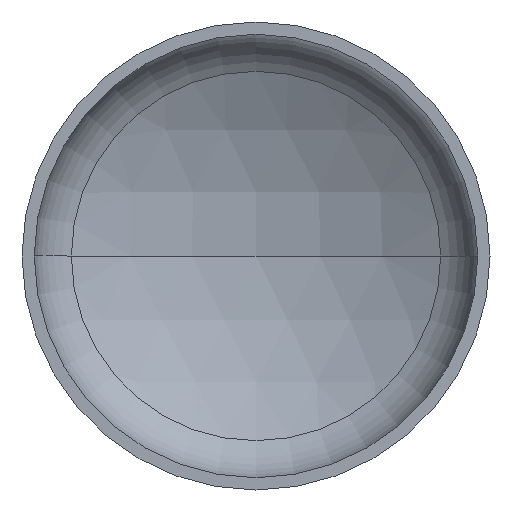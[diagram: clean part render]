
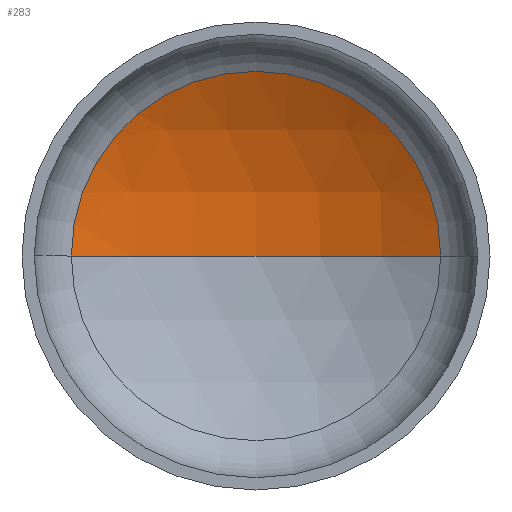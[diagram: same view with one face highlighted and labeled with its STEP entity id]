
A CAD part, front view. The second image highlights one B-rep face of the part: STEP entity #283.
In plain terms, the highlighted spherical face has radius 640 mm.
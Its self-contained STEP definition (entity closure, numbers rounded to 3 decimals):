
#7 = AXIS2_PLACEMENT_3D ( 'NONE', #310, #180, #333 ) ;
#9 = AXIS2_PLACEMENT_3D ( 'NONE', #228, #381, #249 ) ;
#16 = AXIS2_PLACEMENT_3D ( 'NONE', #328, #201, #356 ) ;
#17 = VERTEX_POINT ( 'NONE', #274 ) ;
#45 = AXIS2_PLACEMENT_3D ( 'NONE', #351, #306, #376 ) ;
#48 = ORIENTED_EDGE ( 'NONE', *, *, #353, .T. ) ;
#51 = FACE_OUTER_BOUND ( 'NONE', #116, .T. ) ;
#56 = VERTEX_POINT ( 'NONE', #277 ) ;
#100 = SPHERICAL_SURFACE ( 'NONE', #45, 640. ) ;
#106 = ORIENTED_EDGE ( 'NONE', *, *, #362, .T. ) ;
#116 = EDGE_LOOP ( 'NONE', ( #119, #106, #48 ) ) ;
#119 = ORIENTED_EDGE ( 'NONE', *, *, #340, .F. ) ;
#122 = VERTEX_POINT ( 'NONE', #303 ) ;
#180 = DIRECTION ( 'NONE',  ( 0., -1., 0. ) ) ;
#201 = DIRECTION ( 'NONE',  ( 0., 0., 1. ) ) ;
#228 = CARTESIAN_POINT ( 'NONE',  ( 0., -378.006, 0. ) ) ;
#237 = CIRCLE ( 'NONE', #16, 640. ) ;
#249 = DIRECTION ( 'NONE',  ( -1., 0., 0. ) ) ;
#273 = CIRCLE ( 'NONE', #7, 315.65 ) ;
#274 = CARTESIAN_POINT ( 'NONE',  ( 315.65, 178.739, 0. ) ) ;
#277 = CARTESIAN_POINT ( 'NONE',  ( -315.65, 178.739, 0. ) ) ;
#283 = ADVANCED_FACE ( 'NONE', ( #51 ), #100, .F. ) ;
#303 = CARTESIAN_POINT ( 'NONE',  ( 0., 261.994, 0. ) ) ;
#306 = DIRECTION ( 'NONE',  ( 0., 0., -1. ) ) ;
#310 = CARTESIAN_POINT ( 'NONE',  ( 0., 178.739, 0. ) ) ;
#328 = CARTESIAN_POINT ( 'NONE',  ( 0., -378.006, 0. ) ) ;
#333 = DIRECTION ( 'NONE',  ( 1., 0., 0. ) ) ;
#340 = EDGE_CURVE ( 'NONE', #122, #56, #237, .T. ) ;
#351 = CARTESIAN_POINT ( 'NONE',  ( 0., -378.006, 0. ) ) ;
#353 = EDGE_CURVE ( 'NONE', #17, #56, #273, .T. ) ;
#356 = DIRECTION ( 'NONE',  ( 1., 0., 0. ) ) ;
#362 = EDGE_CURVE ( 'NONE', #122, #17, #395, .T. ) ;
#376 = DIRECTION ( 'NONE',  ( -1., 0., 0. ) ) ;
#381 = DIRECTION ( 'NONE',  ( 0., 0., -1. ) ) ;
#395 = CIRCLE ( 'NONE', #9, 640. ) ;
